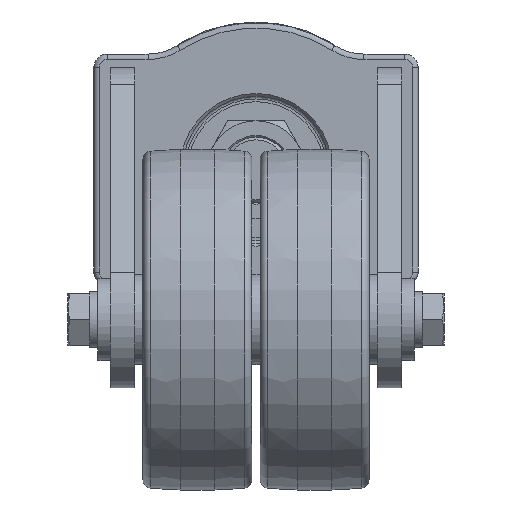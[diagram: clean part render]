
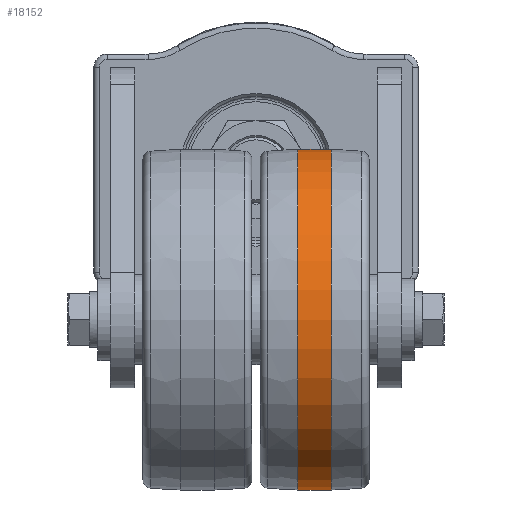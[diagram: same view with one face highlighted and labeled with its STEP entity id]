
A CAD part, front view. The second image highlights one B-rep face of the part: STEP entity #18152.
In plain terms, the highlighted cylindrical face has radius 62.5 mm (diameter 125 mm), a full revolution.
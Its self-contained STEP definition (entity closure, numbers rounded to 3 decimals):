
#1789=CYLINDRICAL_SURFACE('',#19455,62.5);
#2353=FACE_OUTER_BOUND('',#3587,.T.);
#3587=EDGE_LOOP('',(#14213,#14214,#14215,#14216));
#5058=LINE('',#29710,#6028);
#6028=VECTOR('',#22647,62.5);
#6464=CIRCLE('',#19454,62.5);
#6465=CIRCLE('',#19456,62.5);
#8173=VERTEX_POINT('',#29704);
#8174=VERTEX_POINT('',#29708);
#10279=EDGE_CURVE('',#8173,#8173,#6464,.T.);
#10280=EDGE_CURVE('',#8174,#8174,#6465,.T.);
#10281=EDGE_CURVE('',#8174,#8173,#5058,.T.);
#14213=ORIENTED_EDGE('',*,*,#10280,.F.);
#14214=ORIENTED_EDGE('',*,*,#10281,.T.);
#14215=ORIENTED_EDGE('',*,*,#10279,.T.);
#14216=ORIENTED_EDGE('',*,*,#10281,.F.);
#18152=ADVANCED_FACE('',(#2353),#1789,.T.);
#19454=AXIS2_PLACEMENT_3D('',#29706,#22641,#22642);
#19455=AXIS2_PLACEMENT_3D('',#29707,#22643,#22644);
#19456=AXIS2_PLACEMENT_3D('',#29709,#22645,#22646);
#22641=DIRECTION('center_axis',(-1.,0.,0.));
#22642=DIRECTION('ref_axis',(0.,0.,
1.));
#22643=DIRECTION('center_axis',(-1.,0.,0.));
#22644=DIRECTION('ref_axis',(0.,0.,
1.));
#22645=DIRECTION('center_axis',(-1.,0.,0.));
#22646=DIRECTION('ref_axis',(0.,0.,
1.));
#22647=DIRECTION('',(1.,0.,0.));
#29704=CARTESIAN_POINT('',(27.7,-110.,-117.5));
#29706=CARTESIAN_POINT('Origin',(27.7,-110.,-55.));
#29707=CARTESIAN_POINT('Origin',(21.5,-110.,-55.));
#29708=CARTESIAN_POINT('',(15.3,-110.,-117.5));
#29709=CARTESIAN_POINT('Origin',(15.3,-110.,-55.));
#29710=CARTESIAN_POINT('',(21.5,-110.,-117.5));
